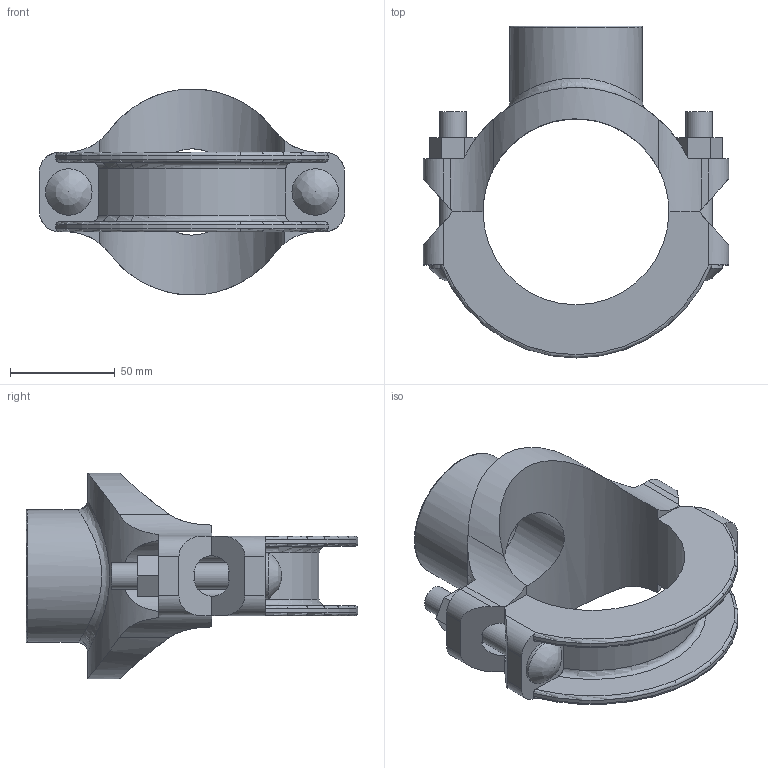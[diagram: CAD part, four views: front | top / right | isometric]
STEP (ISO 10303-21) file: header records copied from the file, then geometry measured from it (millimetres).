
FILE_DESCRIPTION(/* description */ ('VIC SS MECHANICAL T BRANCH OUTLET STYLE 422 (BSPP)','CAx-IF Rec.Pracs.---Representation and Presentation of Product Manufacturing Information (PMI)---4.0---2014-10-13'),/* implementation_level */ '2;1');
FILE_NAME(/* name */ 'C:\Files for Export\422\STEP\Victaulic_SS-OGS_Mech-Tee Out_Style 422 (BSPP)\Victaulic_SS-OGS_Mech-Tee Out_Style 422 (BSPP)_03.0x01.5 (80x40).stp',/* time_stamp */ '2023-03-28T14:24:13+02:00',/* author */ ('jheald'),/* organization */ ('Victaulic'),/* preprocessor_version */ 'ST-DEVELOPER v18.1',/* originating_system */ 'Autodesk Inventor 2020',/* authorisation */ '');
FILE_SCHEMA (('AP242_MANAGED_MODEL_BASED_3D_ENGINEERING_MIM_LF { 1 0 10303 442 1 1 4 }'));
Length unit declared in the file: inch
Products named in the file (1): 422-03.0x01.5
Bounding box: 146.05 x 158.75 x 98.54 mm (x, y, z)
Volume: 316047.6 mm3; surface area: 80171.1 mm2
Topology: 1 solids, 1 shells, 96 faces, 284 edges, 190 vertices
Faces by surface type: plane 52, cylinder 34, torus 7, bspline 3
Full cylindrical faces by diameter (mm): 12.7 x4, 22.225 x2, 41.275 x1, 48.26 x1, 63.5 x1, 88.9 x1
Entity records: 4052 total; most frequent: CARTESIAN_POINT 1232, ORIENTED_EDGE 564, DIRECTION 560, EDGE_CURVE 282, AXIS2_PLACEMENT_3D 204, VERTEX_POINT 190, LINE 152, VECTOR 152
